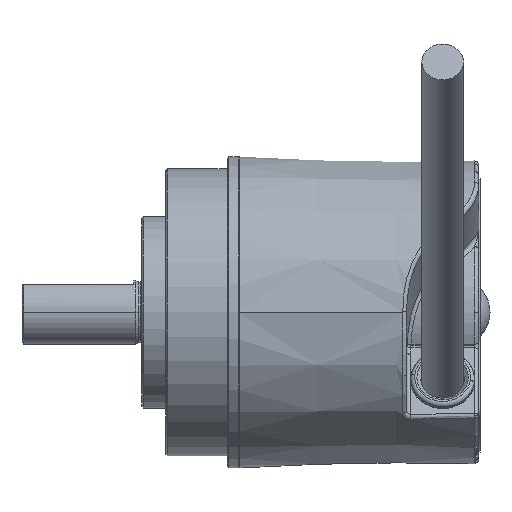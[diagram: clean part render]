
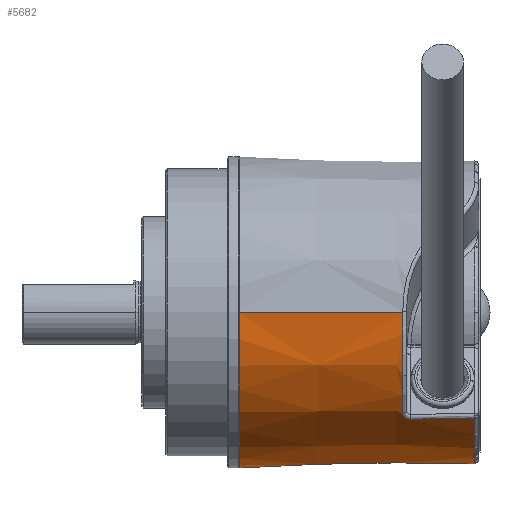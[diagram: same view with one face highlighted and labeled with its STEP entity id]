
A CAD part, front view. The second image highlights one B-rep face of the part: STEP entity #5682.
In plain terms, the highlighted conical face has half-angle 1 degrees and reference radius 18.976 mm.
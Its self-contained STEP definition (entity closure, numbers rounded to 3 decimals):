
#358 = CARTESIAN_POINT ( 'NONE',  ( 33.709, -13.658, -13.387 ) ) ;
#501 = DIRECTION ( 'NONE',  ( 0., -1., 0. ) ) ;
#502 = DIRECTION ( 'NONE',  ( -1., 0., 0. ) ) ;
#503 = CARTESIAN_POINT ( 'NONE',  ( 42.2, 0., 0. ) ) ;
#504 = AXIS2_PLACEMENT_3D ( 'NONE', #503, #502, #501 ) ;
#509 = CONICAL_SURFACE ( 'NONE', #504, 18.976, 0.017 ) ;
#524 = FACE_OUTER_BOUND ( 'NONE', #946, .T. ) ;
#577 = CARTESIAN_POINT ( 'NONE',  ( 33.709, -13.658, -13.387 ) ) ;
#578 = CARTESIAN_POINT ( 'NONE',  ( 34.709, -13.649, -13.371 ) ) ;
#579 = CARTESIAN_POINT ( 'NONE',  ( 35.709, -13.64, -13.356 ) ) ;
#580 = CARTESIAN_POINT ( 'NONE',  ( 36.71, -13.631, -13.34 ) ) ;
#581 = CARTESIAN_POINT ( 'NONE',  ( 38.043, -13.619, -13.319 ) ) ;
#582 = CARTESIAN_POINT ( 'NONE',  ( 39.376, -13.607, -13.298 ) ) ;
#583 = CARTESIAN_POINT ( 'NONE',  ( 40.709, -13.595, -13.277 ) ) ;
#584 = CARTESIAN_POINT ( 'NONE',  ( 41.042, -13.592, -13.271 ) ) ;
#585 = CARTESIAN_POINT ( 'NONE',  ( 41.375, -13.589, -13.266 ) ) ;
#586 = CARTESIAN_POINT ( 'NONE',  ( 41.709, -13.586, -13.261 ) ) ;
#592 = B_SPLINE_CURVE_WITH_KNOTS ( 'NONE', 3,
 ( #586, #585, #584, #583, #582, #581, #580, #579, #578, #577 ),
 .UNSPECIFIED., .F., .F.,
 ( 4, 3, 3, 4 ),
 ( 0., 0.001, 0.005, 0.008 ),
 .UNSPECIFIED. ) ;
#946 = EDGE_LOOP ( 'NONE', ( #5622, #5627, #4603, #4609, #4629, #5140, #5118 ) ) ;
#1015 = CARTESIAN_POINT ( 'NONE',  ( 12.2, -19.5, 0. ) ) ;
#3351 = EDGE_CURVE ( 'NONE', #4150, #5801, #6715, .T. ) ;
#4115 = EDGE_CURVE ( 'NONE', #4121, #5801, #9187, .T. ) ;
#4120 = VERTEX_POINT ( 'NONE', #9249 ) ;
#4121 = VERTEX_POINT ( 'NONE', #9246 ) ;
#4150 = VERTEX_POINT ( 'NONE', #9323 ) ;
#4154 = EDGE_CURVE ( 'NONE', #4162, #4150, #9357, .T. ) ;
#4162 = VERTEX_POINT ( 'NONE', #9381 ) ;
#4603 = ORIENTED_EDGE ( 'NONE', *, *, #5697, .T. ) ;
#4607 = EDGE_CURVE ( 'NONE', #4162, #4120, #10850, .T. ) ;
#4609 = ORIENTED_EDGE ( 'NONE', *, *, #5059, .F. ) ;
#4617 = VERTEX_POINT ( 'NONE', #10879 ) ;
#4629 = ORIENTED_EDGE ( 'NONE', *, *, #4643, .T. ) ;
#4643 = EDGE_CURVE ( 'NONE', #4617, #4121, #10939, .T. ) ;
#5059 = EDGE_CURVE ( 'NONE', #4617, #5614, #11911, .T. ) ;
#5118 = ORIENTED_EDGE ( 'NONE', *, *, #3351, .F. ) ;
#5140 = ORIENTED_EDGE ( 'NONE', *, *, #4115, .T. ) ;
#5614 = VERTEX_POINT ( 'NONE', #358 ) ;
#5622 = ORIENTED_EDGE ( 'NONE', *, *, #4154, .F. ) ;
#5627 = ORIENTED_EDGE ( 'NONE', *, *, #4607, .T. ) ;
#5682 = ADVANCED_FACE ( 'NONE', ( #524 ), #509, .T. ) ;
#5697 = EDGE_CURVE ( 'NONE', #4120, #5614, #592, .T. ) ;
#5801 = VERTEX_POINT ( 'NONE', #1015 ) ;
#6711 = DIRECTION ( 'NONE',  ( 0., -1., 0. ) ) ;
#6712 = DIRECTION ( 'NONE',  ( -1., 0., 0. ) ) ;
#6713 = CARTESIAN_POINT ( 'NONE',  ( 12.2, 0., 0. ) ) ;
#6714 = AXIS2_PLACEMENT_3D ( 'NONE', #6713, #6712, #6711 ) ;
#6715 = CIRCLE ( 'NONE', #6714, 19.5 ) ;
#9186 = CARTESIAN_POINT ( 'NONE',  ( 42.2, -18.976, 0. ) ) ;
#9187 = LINE ( 'NONE', #9186, #9251 ) ;
#9246 = CARTESIAN_POINT ( 'NONE',  ( 32.709, -19.142, 0. ) ) ;
#9249 = CARTESIAN_POINT ( 'NONE',  ( 41.709, -13.586, -13.261 ) ) ;
#9250 = DIRECTION ( 'NONE',  ( -1., -0.017, 0. ) ) ;
#9251 = VECTOR ( 'NONE', #9250, 1000. ) ;
#9323 = CARTESIAN_POINT ( 'NONE',  ( 12.2, 19.5, 0. ) ) ;
#9354 = DIRECTION ( 'NONE',  ( -1., 0.017, 0. ) ) ;
#9355 = VECTOR ( 'NONE', #9354, 1000. ) ;
#9356 = CARTESIAN_POINT ( 'NONE',  ( 42.2, 18.976, 0. ) ) ;
#9357 = LINE ( 'NONE', #9356, #9355 ) ;
#9381 = CARTESIAN_POINT ( 'NONE',  ( 41.709, 18.985, 0. ) ) ;
#10846 = DIRECTION ( 'NONE',  ( 0., 1., 0. ) ) ;
#10847 = DIRECTION ( 'NONE',  ( -1., 0., 0. ) ) ;
#10848 = CARTESIAN_POINT ( 'NONE',  ( 41.709, 0., 0. ) ) ;
#10849 = AXIS2_PLACEMENT_3D ( 'NONE', #10848, #10847, #10846 ) ;
#10850 = CIRCLE ( 'NONE', #10849, 18.985 ) ;
#10879 = CARTESIAN_POINT ( 'NONE',  ( 32.709, -14.397, -12.615 ) ) ;
#10935 = DIRECTION ( 'NONE',  ( 0., -1., 0. ) ) ;
#10936 = DIRECTION ( 'NONE',  ( -1., 0., 0. ) ) ;
#10937 = CARTESIAN_POINT ( 'NONE',  ( 32.709, 0., 0. ) ) ;
#10938 = AXIS2_PLACEMENT_3D ( 'NONE', #10937, #10936, #10935 ) ;
#10939 = CIRCLE ( 'NONE', #10938, 19.142 ) ;
#11911 = B_SPLINE_CURVE_WITH_KNOTS ( 'NONE', 3,
 ( #11965, #11964, #11963, #11962, #11961, #11960, #11959, #11958, #11957, #11956 ),
 .UNSPECIFIED., .F., .F.,
 ( 4, 2, 2, 2, 4 ),
 ( 0., 0., 0.001, 0.001, 0.002 ),
 .UNSPECIFIED. ) ;
#11956 = CARTESIAN_POINT ( 'NONE',  ( 33.709, -13.658, -13.387 ) ) ;
#11957 = CARTESIAN_POINT ( 'NONE',  ( 33.572, -13.659, -13.389 ) ) ;
#11958 = CARTESIAN_POINT ( 'NONE',  ( 33.437, -13.681, -13.37 ) ) ;
#11959 = CARTESIAN_POINT ( 'NONE',  ( 33.19, -13.762, -13.293 ) ) ;
#11960 = CARTESIAN_POINT ( 'NONE',  ( 33.079, -13.821, -13.235 ) ) ;
#11961 = CARTESIAN_POINT ( 'NONE',  ( 32.898, -13.961, -13.091 ) ) ;
#11962 = CARTESIAN_POINT ( 'NONE',  ( 32.827, -14.044, -13.005 ) ) ;
#11963 = CARTESIAN_POINT ( 'NONE',  ( 32.733, -14.216, -12.819 ) ) ;
#11964 = CARTESIAN_POINT ( 'NONE',  ( 32.709, -14.307, -12.718 ) ) ;
#11965 = CARTESIAN_POINT ( 'NONE',  ( 32.709, -14.397, -12.615 ) ) ;
